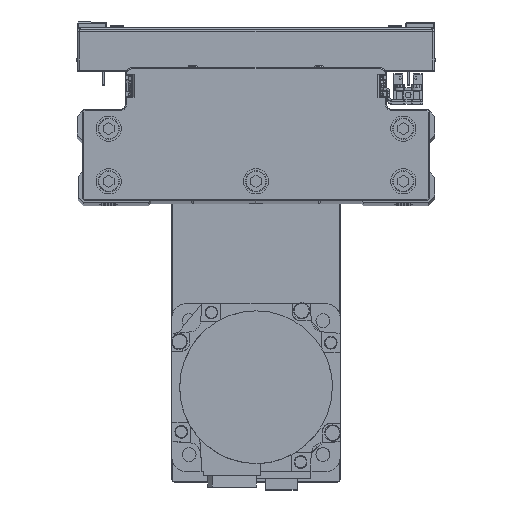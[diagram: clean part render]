
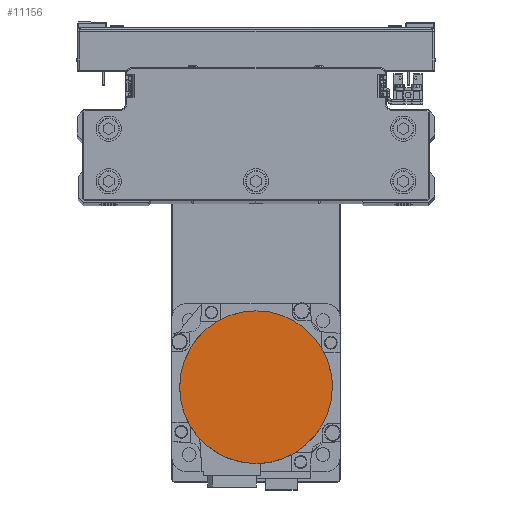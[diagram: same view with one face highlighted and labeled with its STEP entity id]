
A CAD part, top view. The second image highlights one B-rep face of the part: STEP entity #11156.
In plain terms, the highlighted planar face has unit normal (0, 0, 1) as drawn and (0, 0, -1) by its records, which use the part's own axes.
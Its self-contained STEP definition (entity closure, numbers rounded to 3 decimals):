
#1271 = CARTESIAN_POINT ( 'NONE',  ( -22.143, 28.862, -122.2 ) ) ;
#1650 = CARTESIAN_POINT ( 'NONE',  ( 0., 0., -122.2 ) ) ;
#2444 = CARTESIAN_POINT ( 'NONE',  ( -23.988, -27.348, -122.2 ) ) ;
#4015 = DIRECTION ( 'NONE',  ( 1., 0., 0. ) ) ;
#4666 = CARTESIAN_POINT ( 'NONE',  ( -11.696, 34.446, -122.2 ) ) ;
#4848 = VERTEX_POINT ( 'NONE', #33224 ) ;
#4898 = CARTESIAN_POINT ( 'NONE',  ( -36.3, 0., -122.2 ) ) ;
#5849 = CARTESIAN_POINT ( 'NONE',  ( -31.502, -18.192, -122.2 ) ) ;
#6680 = CIRCLE ( 'NONE', #12484, 36.3 ) ;
#7426 = PLANE ( 'NONE',  #19085 ) ;
#8081 = CARTESIAN_POINT ( 'NONE',  ( -2.376, 36.3, -122.2 ) ) ;
#8293 = CARTESIAN_POINT ( 'NONE',  ( -35.139, 9.412, -122.2 ) ) ;
#9108 = CARTESIAN_POINT ( 'NONE',  ( 0., -36.3, -122.2 ) ) ;
#9263 = CARTESIAN_POINT ( 'NONE',  ( -35.139, -9.412, -122.2 ) ) ;
#9340 = CARTESIAN_POINT ( 'NONE',  ( 36.3, 0., -122.2 ) ) ;
#9477 = CARTESIAN_POINT ( 'NONE',  ( -2.376, -36.3, -122.2 ) ) ;
#9797 = DIRECTION ( 'NONE',  ( 0., 0., 1. ) ) ;
#11156 = ADVANCED_FACE ( 'NONE', ( #38476 ), #7426, .F. ) ;
#11233 = B_SPLINE_CURVE_WITH_KNOTS ( 'NONE', 3,
 ( #39131, #8081, #21909, #35727, #4666, #18493, #32314, #1271, #15113, #28919, #42753, #11701, #25521, #39350, #8293, #22120, #35946, #4898 ),
 .UNSPECIFIED., .F., .F.,
 ( 4, 2, 2, 2, 2, 2, 2, 2, 4 ),
 ( 0., 0.125, 0.25, 0.375, 0.5, 0.625, 0.75, 0.875, 1. ),
 .UNSPECIFIED. ) ;
#11701 = CARTESIAN_POINT ( 'NONE',  ( -31.502, 18.192, -122.2 ) ) ;
#12484 = AXIS2_PLACEMENT_3D ( 'NONE', #1650, #15485, #29287 ) ;
#12657 = CARTESIAN_POINT ( 'NONE',  ( -36.3, 0., -122.2 ) ) ;
#12887 = CARTESIAN_POINT ( 'NONE',  ( -11.696, -34.446, -122.2 ) ) ;
#15113 = CARTESIAN_POINT ( 'NONE',  ( -23.988, 27.348, -122.2 ) ) ;
#15485 = DIRECTION ( 'NONE',  ( 0., 0., 1. ) ) ;
#15723 = VERTEX_POINT ( 'NONE', #9340 ) ;
#16278 = CARTESIAN_POINT ( 'NONE',  ( -22.143, -28.862, -122.2 ) ) ;
#18493 = CARTESIAN_POINT ( 'NONE',  ( -16.086, 32.628, -122.2 ) ) ;
#19079 = VERTEX_POINT ( 'NONE', #9108 ) ;
#19085 = AXIS2_PLACEMENT_3D ( 'NONE', #21257, #35066, #4015 ) ;
#19694 = CARTESIAN_POINT ( 'NONE',  ( -28.862, -22.143, -122.2 ) ) ;
#21257 = CARTESIAN_POINT ( 'NONE',  ( 0., 0., -122.2 ) ) ;
#21909 = CARTESIAN_POINT ( 'NONE',  ( -4.752, 36.066, -122.2 ) ) ;
#22117 = EDGE_CURVE ( 'NONE', #40258, #19079, #40956, .T. ) ;
#22120 = CARTESIAN_POINT ( 'NONE',  ( -36.066, 4.752, -122.2 ) ) ;
#22592 = AXIS2_PLACEMENT_3D ( 'NONE', #40851, #9797, #23633 ) ;
#23091 = CARTESIAN_POINT ( 'NONE',  ( -34.446, -11.696, -122.2 ) ) ;
#23311 = CARTESIAN_POINT ( 'NONE',  ( 0., -36.3, -122.2 ) ) ;
#23633 = DIRECTION ( 'NONE',  ( -1., 0., 0. ) ) ;
#25521 = CARTESIAN_POINT ( 'NONE',  ( -32.628, 16.086, -122.2 ) ) ;
#26479 = CARTESIAN_POINT ( 'NONE',  ( -36.3, -2.376, -122.2 ) ) ;
#26490 = ORIENTED_EDGE ( 'NONE', *, *, #44419, .F. ) ;
#26708 = CARTESIAN_POINT ( 'NONE',  ( -9.412, -35.139, -122.2 ) ) ;
#28624 = CARTESIAN_POINT ( 'NONE',  ( -36.3, 0., -122.2 ) ) ;
#28720 = EDGE_LOOP ( 'NONE', ( #31047, #30687, #26490, #41749 ) ) ;
#28919 = CARTESIAN_POINT ( 'NONE',  ( -27.348, 23.988, -122.2 ) ) ;
#29287 = DIRECTION ( 'NONE',  ( -1., 0., 0. ) ) ;
#29932 = EDGE_CURVE ( 'NONE', #15723, #4848, #6680, .T. ) ;
#30087 = CARTESIAN_POINT ( 'NONE',  ( -18.192, -31.502, -122.2 ) ) ;
#30687 = ORIENTED_EDGE ( 'NONE', *, *, #22117, .F. ) ;
#31047 = ORIENTED_EDGE ( 'NONE', *, *, #32670, .F. ) ;
#32314 = CARTESIAN_POINT ( 'NONE',  ( -18.192, 31.502, -122.2 ) ) ;
#32670 = EDGE_CURVE ( 'NONE', #19079, #15723, #42126, .T. ) ;
#33224 = CARTESIAN_POINT ( 'NONE',  ( 0., 36.3, -122.2 ) ) ;
#33503 = CARTESIAN_POINT ( 'NONE',  ( -27.348, -23.988, -122.2 ) ) ;
#35066 = DIRECTION ( 'NONE',  ( 0., 0., 1. ) ) ;
#35727 = CARTESIAN_POINT ( 'NONE',  ( -9.412, 35.139, -122.2 ) ) ;
#35946 = CARTESIAN_POINT ( 'NONE',  ( -36.3, 2.376, -122.2 ) ) ;
#36910 = CARTESIAN_POINT ( 'NONE',  ( -32.628, -16.086, -122.2 ) ) ;
#38476 = FACE_OUTER_BOUND ( 'NONE', #28720, .T. ) ;
#39131 = CARTESIAN_POINT ( 'NONE',  ( 0., 36.3, -122.2 ) ) ;
#39350 = CARTESIAN_POINT ( 'NONE',  ( -34.446, 11.696, -122.2 ) ) ;
#40258 = VERTEX_POINT ( 'NONE', #28624 ) ;
#40311 = CARTESIAN_POINT ( 'NONE',  ( -36.066, -4.752, -122.2 ) ) ;
#40532 = CARTESIAN_POINT ( 'NONE',  ( -4.752, -36.066, -122.2 ) ) ;
#40851 = CARTESIAN_POINT ( 'NONE',  ( 0., 0., -122.2 ) ) ;
#40956 = B_SPLINE_CURVE_WITH_KNOTS ( 'NONE', 3,
 ( #12657, #26479, #40311, #9263, #23091, #36910, #5849, #19694, #33503, #2444, #16278, #30087, #43925, #12887, #26708, #40532, #9477, #23311 ),
 .UNSPECIFIED., .F., .F.,
 ( 4, 2, 2, 2, 2, 2, 2, 2, 4 ),
 ( 0., 0.125, 0.25, 0.375, 0.5, 0.625, 0.75, 0.875, 1. ),
 .UNSPECIFIED. ) ;
#41749 = ORIENTED_EDGE ( 'NONE', *, *, #29932, .F. ) ;
#42126 = CIRCLE ( 'NONE', #22592, 36.3 ) ;
#42753 = CARTESIAN_POINT ( 'NONE',  ( -28.862, 22.143, -122.2 ) ) ;
#43925 = CARTESIAN_POINT ( 'NONE',  ( -16.086, -32.628, -122.2 ) ) ;
#44419 = EDGE_CURVE ( 'NONE', #4848, #40258, #11233, .T. ) ;
